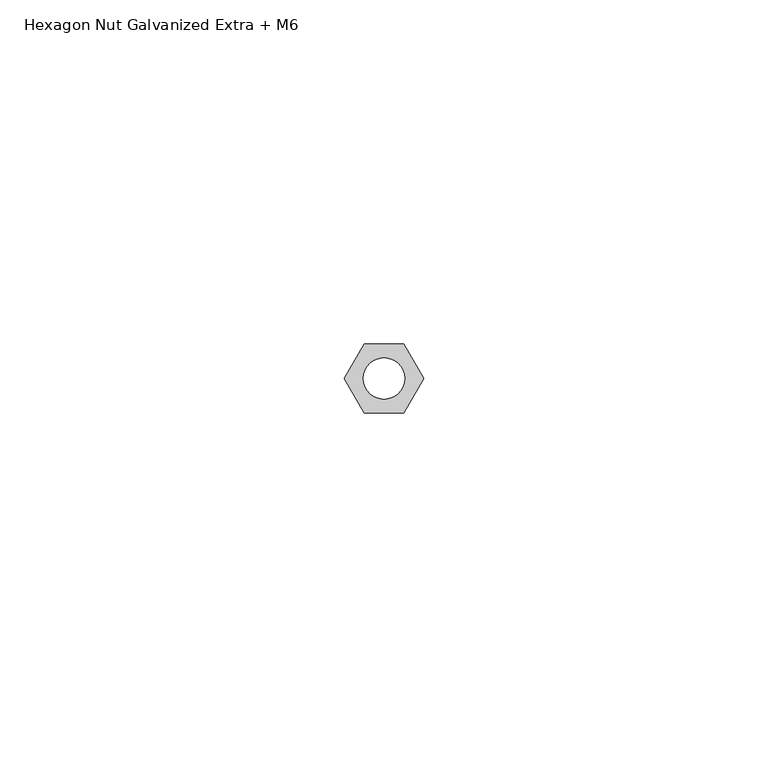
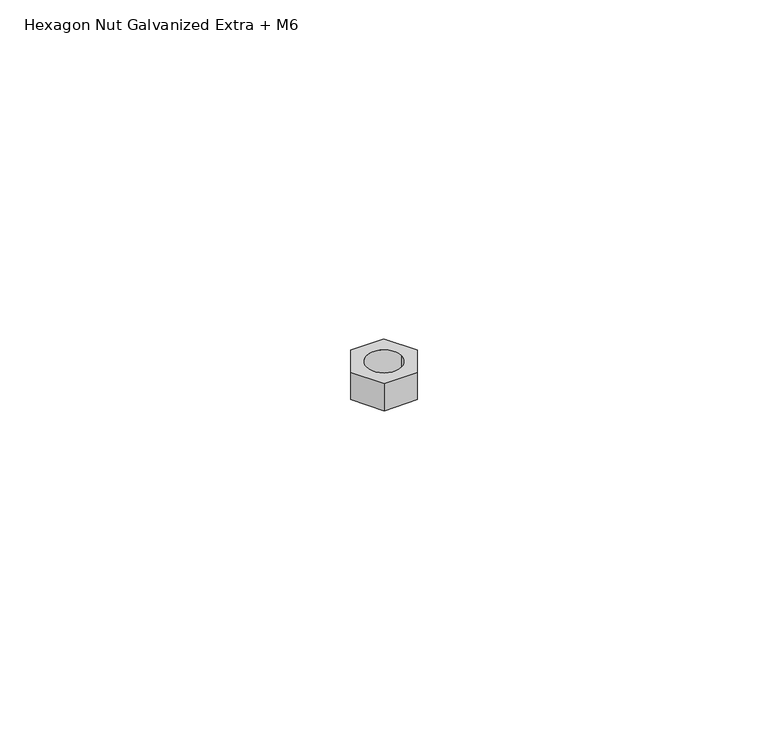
"""IFC4 building model written with IfcOpenShell, lengths in millimetres: valve geometry, Superfix Hexagon Nut Galvanized : Hexagon Nut Galvanized Extra + M6."""

from ifc_helpers import new_model, si_unit, point, origin, origin_with_axes, origin_2d, place, context, project, spatial, polyline, circle_curve, trimmed, segment, composite_curve, outline, extrude, source, transform, mapped, element, save


def hexagon_nut_galvanized_extra_m6_d26f8cee(model_context):
    return source(origin(), model_context, "Body", "SweptSolid", [
        extrude(outline(polyline([(-5.7735027, 0.0), (-2.8867513, 5.0), (2.8867513, 5.0), (5.7735027, 0.0), (2.8867513, -5.0), (-2.8867513, -5.0), (-5.7735027, 0.0)]), holes=[composite_curve([segment(trimmed(circle_curve(origin_2d(), 3.0), [point((-3.0, 0.0))], [point((3.0, 0.0))], True, "CARTESIAN"), True, "CONTINUOUS"), segment(trimmed(circle_curve(origin_2d(), 3.0), [point((3.0, 0.0))], [point((-3.0, 0.0))], True, "CARTESIAN"), True, "CONTINUOUS")], self_intersect=False)]), origin_with_axes(), (0.0, 0.0, 1.0), 5.0),
    ])


if __name__ == "__main__":
    model = new_model("IFC4")
    model_context = context("Model", 3, world=origin())
    ifc_project = project(units=[si_unit("LENGTHUNIT", "METRE", prefix="MILLI")], contexts=[model_context])
    site = spatial("IfcSite", under=ifc_project)
    building = spatial("IfcBuilding", under=site)
    placement = place(None, origin())
    hexagon_nut_galvanized_extra_m6_shape = hexagon_nut_galvanized_extra_m6_d26f8cee(model_context)
    element("IfcValve", 1, ObjectType="Superfix Hexagon Nut Galvanized : Hexagon Nut Galvanized Extra + M6", at=placement, inside=building, context=model_context, shape_type="MappedRepresentation", body=[
        mapped(hexagon_nut_galvanized_extra_m6_shape, transform((0.0, 0.0, 0.0), x_axis=(1.0, 0.0, 0.0), y_axis=(0.0, 1.0, 0.0), z_axis=(0.0, 0.0, 1.0))),
    ])
    save(model, "model.ifc")
